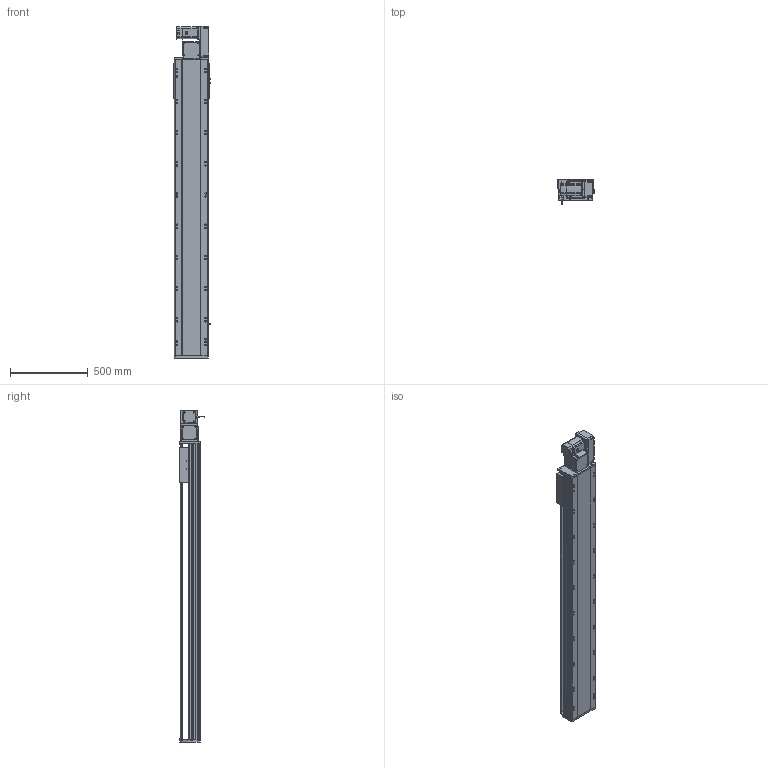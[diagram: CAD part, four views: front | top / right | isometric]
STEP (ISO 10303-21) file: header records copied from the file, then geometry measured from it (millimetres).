
FILE_DESCRIPTION (( 'STEP AP214' ), '1' );
FILE_NAME ('RTB22S-XX-1550-R-M75-C4.STEP', '2025-12-12T07:22:41', ( '' ), ( '' ), 'SwSTEP 2.0', 'SolidWorks 2018', '' );
FILE_SCHEMA (( 'AUTOMOTIVE_DESIGN' ));
Length unit declared in the file: millimetre
Products named in the file (14): OMRON EE-SX672 传感器^RTB22S-XX-XX-R-M75-C4; RTB22S-GY-001耜裔^RTB22S-XX-XX-R-M75-C4; RTB22S-XX-1550-R-M75-C4; 750W萇儂^RTB22S-XX-XX-R-M75-C4; RTB22S-GY-017P^RTB22S-R-々湍釱蚾饜_RTB22S-XX-XX-R-M75-C4; RTB22S-L-011菁釱^RTB22S-XX-XX-R-M75-C4; RTB22S-GY-018P^RTB22S-R-々湍釱蚾饜_RTB22S-XX-XX-R-M75-C4; RTB22S-L-004賑釱^RTB22S-XX-XX-R-M75-C4; RTB22S-GY-005P^RTB22S-R-々湍釱蚾饜_RTB22S-XX-XX-R-M75-C4; RTB22S-GY-007奻裔^RTB22S-XX-XX-R-M75-C4; RTH22-GY-013外置感应片^RTB22S-XX-XX-R-M75-C4; RTB22S-GY-014--々湍釱^RTB22S-R-々湍釱蚾饜_RTB22S-XX-XX-R-M75-C4; RTB22S-GY-008-M75--萇儂啣^RTB22S-R-々湍釱蚾饜_RTB22S-XX-XX-R-M75-C4; RTB22S-R-々湍釱蚾饜^RTB22S-XX-XX-R-M75-C4
Assembly tree (16 placements, depth 3):
  RTB22S-XX-1550-R-M75-C4
    RTB22S-L-011菁釱^RTB22S-XX-XX-R-M75-C4
    RTB22S-GY-001耜裔^RTB22S-XX-XX-R-M75-C4
    750W萇儂^RTB22S-XX-XX-R-M75-C4
    RTB22S-GY-007奻裔^RTB22S-XX-XX-R-M75-C4
    RTB22S-L-004賑釱^RTB22S-XX-XX-R-M75-C4
    RTH22-GY-013外置感应片^RTB22S-XX-XX-R-M75-C4
    OMRON EE-SX672 传感器^RTB22S-XX-XX-R-M75-C4  x3
    RTB22S-R-々湍釱蚾饜^RTB22S-XX-XX-R-M75-C4
      RTB22S-GY-014--々湍釱^RTB22S-R-々湍釱蚾饜_RTB22S-XX-XX-R-M75-C4
      RTB22S-GY-017P^RTB22S-R-々湍釱蚾饜_RTB22S-XX-XX-R-M75-C4  x2
      RTB22S-GY-005P^RTB22S-R-々湍釱蚾饜_RTB22S-XX-XX-R-M75-C4
      RTB22S-GY-008-M75--萇儂啣^RTB22S-R-々湍釱蚾饜_RTB22S-XX-XX-R-M75-C4
      RTB22S-GY-018P^RTB22S-R-々湍釱蚾饜_RTB22S-XX-XX-R-M75-C4
Bounding box: 238.5 x 162.7 x 2129 mm (x, y, z)
Volume: 27697924.9 mm3; surface area: 2856686.2 mm2
Topology: 15 solids, 15 shells, 2019 faces, 5486 edges, 3512 vertices
Faces by surface type: plane 919, cylinder 646, bspline 296, cone 146, sphere 8, torus 4
Entity records: 54084 total; most frequent: CARTESIAN_POINT 15468, ORIENTED_EDGE 7744, DIRECTION 7486, EDGE_CURVE 3872, AXIS2_PLACEMENT_3D 2654, VERTEX_POINT 2516, VECTOR 2178, LINE 2178
